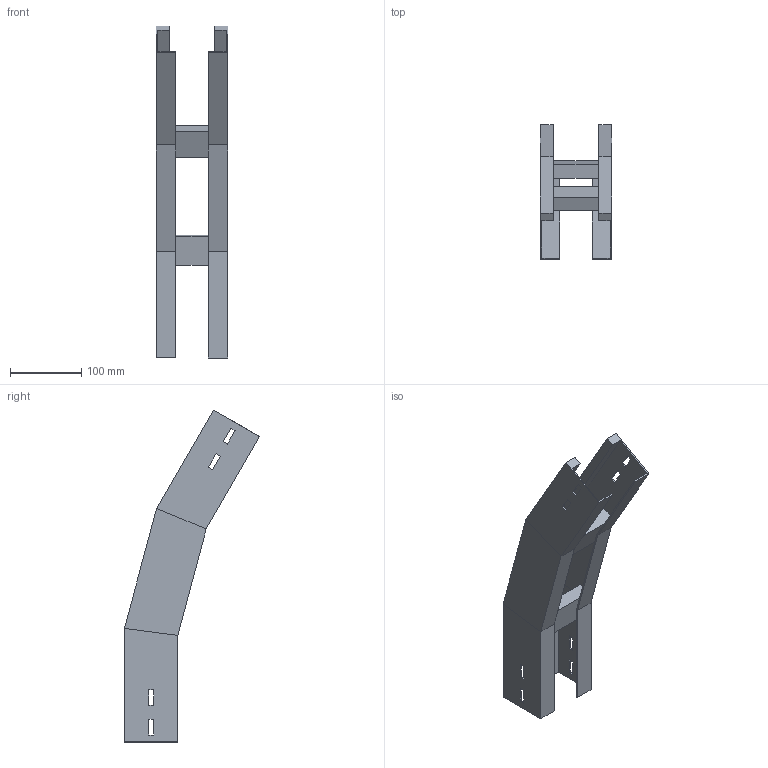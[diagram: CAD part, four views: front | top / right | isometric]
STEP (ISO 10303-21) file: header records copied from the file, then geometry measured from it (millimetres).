
FILE_DESCRIPTION (( 'STEP AP214' ), '1' );
FILE_NAME ('A2_35B3C100.step', '2025-02-21T14:49:42', ( '' ), ( '' ), 'SwSTEP 2.0', 'SolidWorks 2023', '' );
FILE_SCHEMA (( 'AUTOMOTIVE_DESIGN' ));
Length unit declared in the file: millimetre
Products named in the file (3): A2_35B3C100; LONGH.DISCESA_30°_H75_R300; TRAVERSINO_100
Assembly tree (5 placements, depth 2):
  A2_35B3C100
    LONGH.DISCESA_30°_H75_R300  x2
    TRAVERSINO_100  x3
Bounding box: 100 x 190.12 x 467.12 mm (x, y, z)
Volume: 607466.1 mm3; surface area: 262960.5 mm2
Topology: 5 solids, 5 shells, 102 faces, 244 edges, 152 vertices
Faces by surface type: plane 102
Entity records: 1480 total; most frequent: CARTESIAN_POINT 244, ORIENTED_EDGE 232, DIRECTION 228, VECTOR 116, LINE 116, EDGE_CURVE 116, VERTEX_POINT 72, AXIS2_PLACEMENT_3D 56
